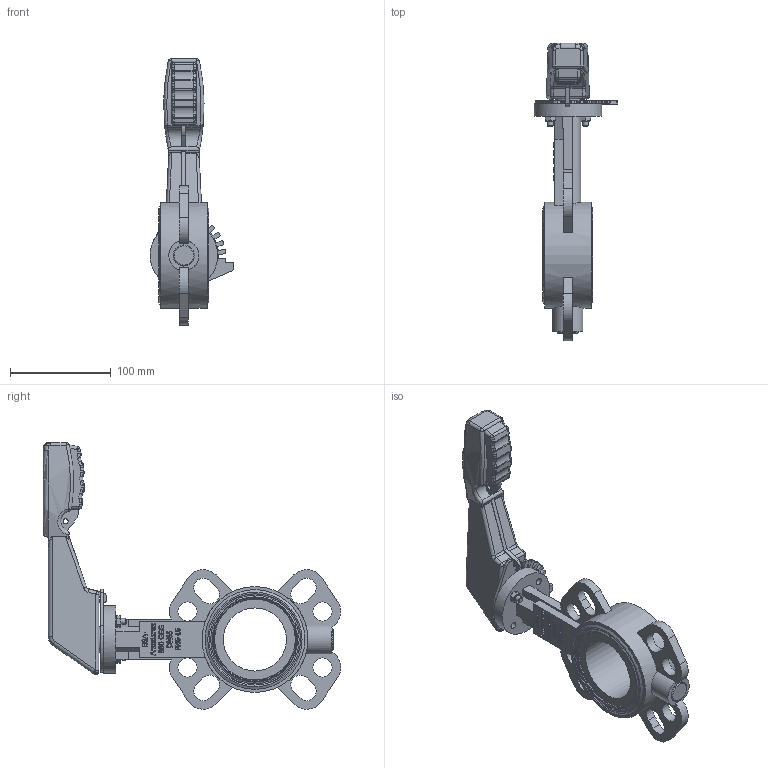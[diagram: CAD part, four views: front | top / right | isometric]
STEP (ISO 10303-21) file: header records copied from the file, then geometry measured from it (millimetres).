
FILE_DESCRIPTION((''),'2;1');
FILE_NAME('K:\Inventor\1 Artikel\10) Absperrklappen\10a) manuell\Witzel\830-GGG, Euronomic BA\830-GGG, DN65\830-GGG, DN65, 3D\830-GGG, DN65, PN6-16, HH, 3D.stp','2019-08-14T09:57:55',('claudia'),(''),'Autodesk Inventor 2013','Autodesk Inventor 2013','');
FILE_SCHEMA(('AUTOMOTIVE_DESIGN { 1 0 10303 214 1 1 1 1 }'));
Length unit declared in the file: millimetre
Products named in the file (1): Bauteil2
Bounding box: 83.12 x 294.94 x 264.51 mm (x, y, z)
Volume: 736517 mm3; surface area: 115397.1 mm2
Topology: 1 solids, 2 shells, 1273 faces, 3427 edges, 2238 vertices
Faces by surface type: plane 540, bspline 464, cylinder 174, cone 47, torus 34, sphere 14
Full cylindrical faces by diameter (mm): 5 x1, 5.387 x2, 6 x4, 7 x4, 8 x2, 11.3 x2, 19 x4, 21 x1, 25 x1, 27 x1, 62.6 x1, 67 x1, 99 x2, 105 x1
Entity records: 47748 total; most frequent: CARTESIAN_POINT 18797, ORIENTED_EDGE 6688, DIRECTION 4464, EDGE_CURVE 3344, VERTEX_POINT 2220, VECTOR 1770, LINE 1770, EDGE_LOOP 1438
